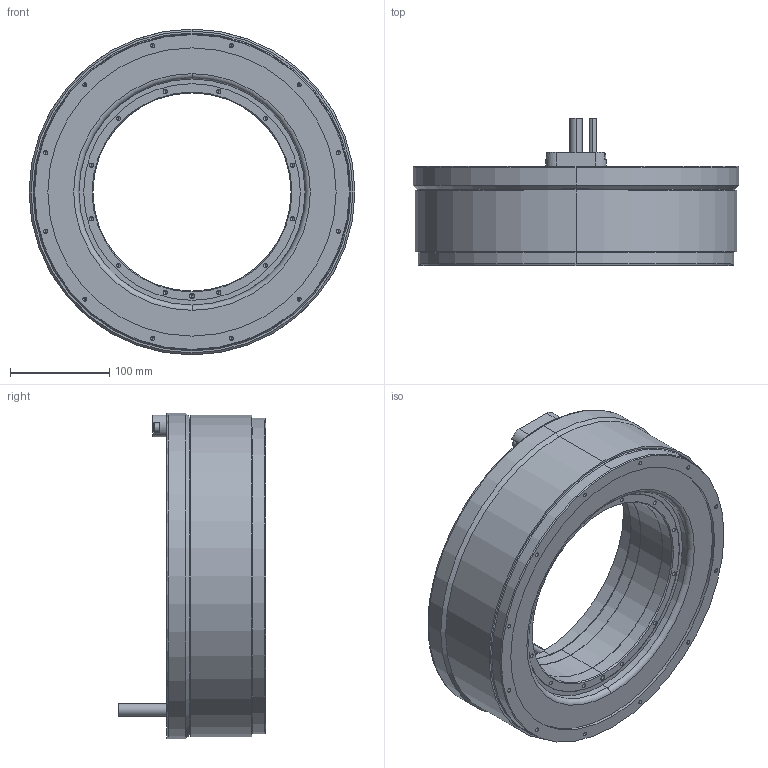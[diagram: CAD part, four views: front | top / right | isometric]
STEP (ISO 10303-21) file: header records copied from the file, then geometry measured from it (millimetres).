
FILE_DESCRIPTION (( 'STEP AP203' ), '1' );
FILE_NAME ('TM-2-76-PB0(J0).STEP', '2023-06-06T01:36:09', ( '' ), ( '' ), 'SwSTEP 2.0', 'SolidWorks 2015', '' );
FILE_SCHEMA (( 'CONFIG_CONTROL_DESIGN' ));
Length unit declared in the file: millimetre
Products named in the file (3): TM-2-76(J0)_Rotor; TM-2-76-PB0(J0); TM-2-76-PB0(J0)_Stator
Assembly tree (2 placements, depth 2):
  TM-2-76-PB0(J0)
    TM-2-76-PB0(J0)_Stator
    TM-2-76(J0)_Rotor
Bounding box: 329 x 149 x 329 mm (x, y, z)
Volume: 4650085 mm3; surface area: 377337.9 mm2
Topology: 2 solids, 2 shells, 330 faces, 794 edges, 431 vertices
Faces by surface type: cylinder 154, cone 126, plane 44, torus 6
Entity records: 9127 total; most frequent: DIRECTION 1704, CARTESIAN_POINT 1454, ORIENTED_EDGE 1376, EDGE_CURVE 688, AXIS2_PLACEMENT_3D 681, VERTEX_POINT 431, EDGE_LOOP 403, CIRCLE 346
